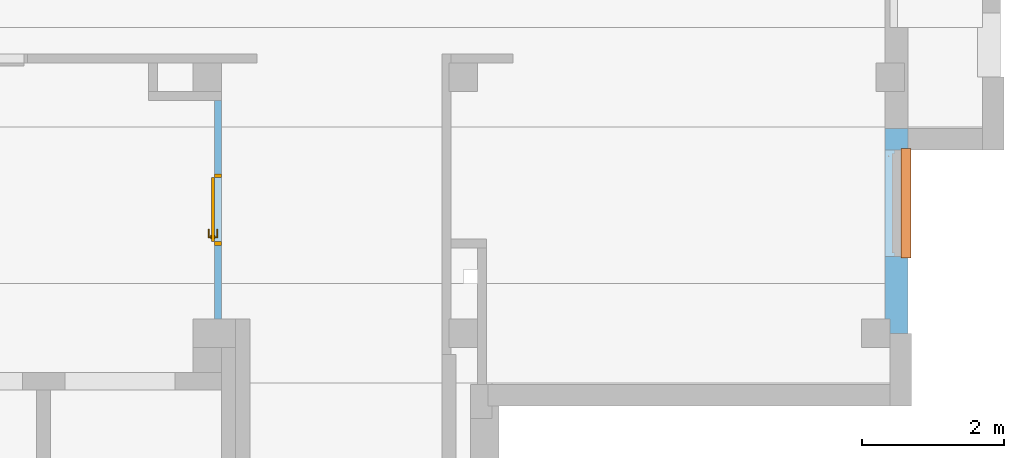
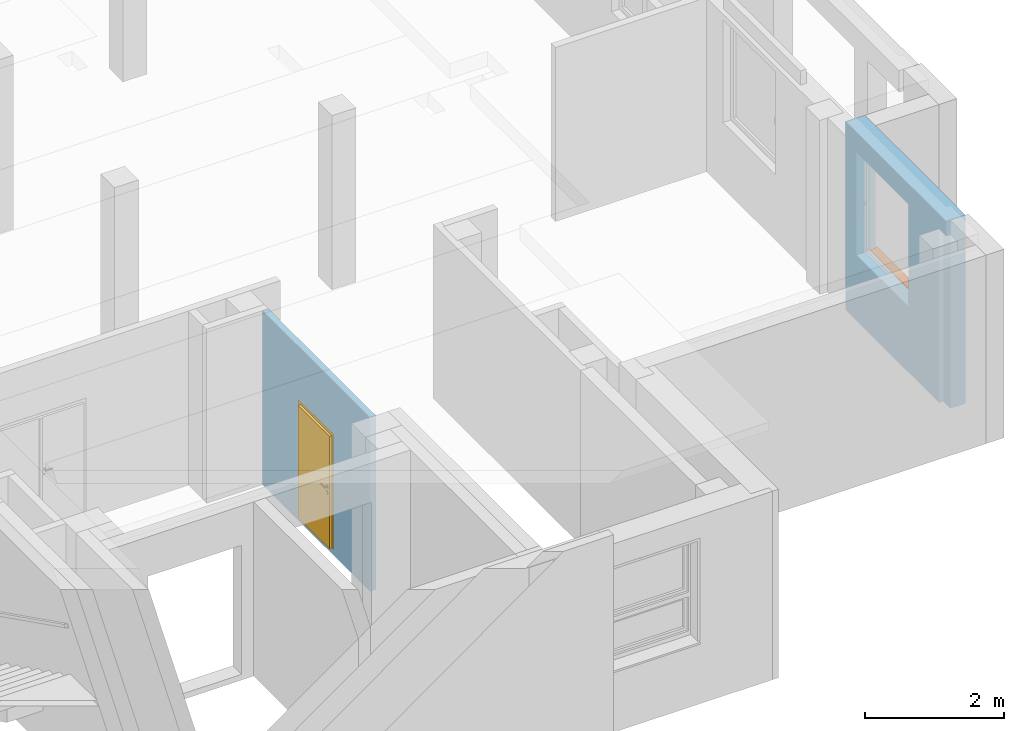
# One storey, part 18 of 27: 1 door, 1 proxy, 2 openings, plus 2 elements that do not belong to this part.
"""IFC4 building model written with IfcOpenShell, lengths in metres."""

import ifcopenshell
import ifcopenshell.guid

model = None  # the IFC model being written
_history = None  # IfcOwnerHistory: only IFC2X3 demands one
_inside = {}  # id of a spatial element -> (the spatial element, [elements in it])
_under = {}  # id of a project, library or spatial element -> (it, [spatial elements below it])
_declared = {}  # id of a project -> (the project, [libraries it declares])
_typed = {}  # id of a type object -> (the type object, [elements of that type])
_made_of = {}  # id of a material, layer set ... -> (it, [elements and type objects made of it])


def new_model(schema):
    """Start an empty IFC model of exactly this schema.

    Asked for "IFC4X3", IfcOpenShell would pick the latest addendum, in which some entities
    have other attributes; the version numbers below select the first issue.
    IFC2X3 requires an IfcOwnerHistory on every rooted entity: one is made here for all.
    """
    global model, _history
    if schema == "IFC4X3":
        model = ifcopenshell.file(schema_version=(4, 3, 0, 0))
    else:
        model = ifcopenshell.file(schema=schema)
    _inside.clear()
    _under.clear()
    _declared.clear()
    _typed.clear()
    _made_of.clear()
    _history = None
    if model.schema == "IFC2X3":
        org = make("IfcOrganization", Name="unknown")
        user = make(
            "IfcPersonAndOrganization",
            ThePerson=make("IfcPerson", FamilyName="unknown"),
            TheOrganization=org,
        )
        app = make(
            "IfcApplication",
            ApplicationDeveloper=org,
            Version="unknown",
            ApplicationFullName="unknown",
            ApplicationIdentifier="unknown",
        )
        _history = make(
            "IfcOwnerHistory",
            OwningUser=user,
            OwningApplication=app,
            ChangeAction="ADDED",
            CreationDate=0,
        )
    return model


def make(cls, **values):
    """One entity of the class cls with the attributes given. An attribute that is None is left unset."""
    return model.create_entity(
        cls, **{name: value for name, value in values.items() if value is not None}
    )


def entity(cls, *values):
    """Any entity or typed value of the class cls, its attributes in the order of the schema. None: left unset."""
    e = model.create_entity(cls)
    for i, value in enumerate(values):
        if value is not None:
            e[i] = value
    return e


def rooted(cls, **values):
    """An entity with a GlobalId (a new one), such as an element, a storey or a relation."""
    return make(cls, GlobalId=ifcopenshell.guid.new(), OwnerHistory=_history, **values)


def si_unit(unit_type, name, prefix=None):
    """IfcSIUnit, for example si_unit("LENGTHUNIT", "METRE", prefix="MILLI")."""
    return make("IfcSIUnit", UnitType=unit_type, Prefix=prefix, Name=name)


def converted_unit(unit_type, name, factor, base, dimensions=None, offset=None):
    """IfcConversionBasedUnit, such as the inch: factor (a typed value) times the base unit."""
    return make(
        "IfcConversionBasedUnit"
        if offset is None
        else "IfcConversionBasedUnitWithOffset",
        ConversionOffset=offset,
        Dimensions=None
        if dimensions is None
        else entity("IfcDimensionalExponents", *dimensions),
        UnitType=unit_type,
        Name=name,
        ConversionFactor=make(
            "IfcMeasureWithUnit", ValueComponent=factor, UnitComponent=base
        ),
    )


def derived_unit(unit_type, elements):
    """IfcDerivedUnit: a product of units, each with its exponent."""
    return make(
        "IfcDerivedUnit",
        Elements=[
            make("IfcDerivedUnitElement", Unit=unit, Exponent=power)
            for unit, power in elements
        ],
        UnitType=unit_type,
    )


def assignment(units):
    """IfcUnitAssignment: the units of a project."""
    return None if units is None else make("IfcUnitAssignment", Units=units)


def point(xyz):
    """IfcCartesianPoint."""
    return None if xyz is None else make("IfcCartesianPoint", Coordinates=xyz)


def direction(xyz):
    """IfcDirection."""
    return None if xyz is None else make("IfcDirection", DirectionRatios=xyz)


def frame(location, z_axis=None, x_axis=None):
    """IfcAxis2Placement3D, a coordinate frame: its origin and axes. An axis left out is left unset."""
    return make(
        "IfcAxis2Placement3D",
        Location=point(location),
        Axis=direction(z_axis),
        RefDirection=direction(x_axis),
    )


def frame_2d(location, x_axis=None):
    """IfcAxis2Placement2D, a coordinate frame in the plane: its origin and x axis."""
    return make(
        "IfcAxis2Placement2D", Location=point(location), RefDirection=direction(x_axis)
    )


def origin():
    """The frame at (0, 0, 0) with its axes left unset."""
    return frame((0.0, 0.0, 0.0))


def origin_with_axes():
    """The frame at (0, 0, 0) with the z axis (0, 0, 1) and the x axis (1, 0, 0) written out."""
    return frame((0.0, 0.0, 0.0), z_axis=(0.0, 0.0, 1.0), x_axis=(1.0, 0.0, 0.0))


def place(relative_to, where):
    """IfcLocalPlacement: puts the frame where relative to a parent placement (None: the world)."""
    return make(
        "IfcLocalPlacement", PlacementRelTo=relative_to, RelativePlacement=where
    )


def context(
    kind, dimensions, precision=None, world=None, true_north=None, identifier=None
):
    """IfcGeometricRepresentationContext, for example the 3D "Model" context."""
    return make(
        "IfcGeometricRepresentationContext",
        ContextIdentifier=identifier,
        ContextType=kind,
        CoordinateSpaceDimension=dimensions,
        Precision=precision,
        WorldCoordinateSystem=world,
        TrueNorth=true_north,
    )


def subcontext(parent, identifier, kind, view, scale=None):
    """IfcGeometricRepresentationSubContext, for example "Body" below "Model"."""
    return make(
        "IfcGeometricRepresentationSubContext",
        ContextIdentifier=identifier,
        ContextType=kind,
        ParentContext=parent,
        TargetScale=scale,
        TargetView=view,
    )


def project(units=None, contexts=None):
    """IfcProject with its units and contexts."""
    return rooted(
        "IfcProject",
        Name="project",
        RepresentationContexts=contexts,
        UnitsInContext=assignment(units),
    )


def spatial(cls, under=None, at=None, **own):
    """A site, building, storey or space (cls), placed at a placement, below another one or the project."""
    s = rooted(cls, ObjectPlacement=at, **own)
    if under is not None:
        _under.setdefault(under.id(), (under, []))[1].append(s)
    return s


def polyline(points):
    """IfcPolyline through the points."""
    return make("IfcPolyline", Points=[point(p) for p in points])


def profile(cls, at=None, kind="AREA", **sizes):
    """A parametric profile (cls). Its sizes go by their IFC names, for example OverallWidth=200.0."""
    return make(cls, ProfileType=kind, Position=at, **sizes)


def rectangle(**sizes):
    """IfcRectangleProfileDef."""
    return profile("IfcRectangleProfileDef", **sizes)


def outline(outer, holes=None, kind="AREA"):
    """IfcArbitraryClosedProfileDef: a profile drawn as a closed curve; with holes, ...WithVoids."""
    if holes is None:
        return make("IfcArbitraryClosedProfileDef", ProfileType=kind, OuterCurve=outer)
    return make(
        "IfcArbitraryProfileDefWithVoids",
        ProfileType=kind,
        OuterCurve=outer,
        InnerCurves=holes,
    )


def extrude(swept, where, along, depth):
    """IfcExtrudedAreaSolid: the profile swept, set in the frame where, extruded along a direction by depth."""
    return make(
        "IfcExtrudedAreaSolid",
        SweptArea=swept,
        Position=where,
        ExtrudedDirection=direction(along),
        Depth=depth,
    )


def clip(a, b, op="DIFFERENCE"):
    """IfcBooleanClippingResult: the solid a cut by the half space b."""
    return make(
        "IfcBooleanClippingResult", Operator=op, FirstOperand=a, SecondOperand=b
    )


def bounded_halfspace(plane, agree, where, boundary):
    """IfcPolygonalBoundedHalfSpace: a half space limited to a polygon's prism."""
    return make(
        "IfcPolygonalBoundedHalfSpace",
        BaseSurface=make("IfcPlane", Position=plane),
        AgreementFlag=agree,
        Position=where,
        PolygonalBoundary=boundary,
    )


def faces_of(points, faces, orient=None, outer=None):
    """IfcFace entities. A face is a list of loops; a loop is a list of indices into points, from 0.

    orient and outer hold one flag for each loop. By default every Orientation is true, the
    first loop of a face is its IfcFaceOuterBound and the others are IfcFaceBound.
    """
    made = []
    for i, loops in enumerate(faces):
        bounds = []
        for j, loop in enumerate(loops):
            is_outer = j == 0 if outer is None else outer[i][j]
            bounds.append(
                make(
                    "IfcFaceOuterBound" if is_outer else "IfcFaceBound",
                    Bound=make("IfcPolyLoop", Polygon=[points[k] for k in loop]),
                    Orientation=True if orient is None else orient[i][j],
                )
            )
        made.append(make("IfcFace", Bounds=bounds))
    return made


def closed_shell(faces, orient=None, outer=None):
    """The faces of one IfcClosedShell. faceted_brep and surface_model build it on their shared points."""
    return ("IfcClosedShell", faces, orient, outer)


def open_shell(faces, orient=None, outer=None):
    """The faces of one IfcOpenShell. surface_model builds it on its shared points."""
    return ("IfcOpenShell", faces, orient, outer)


def faceted_brep(points, faces, orient=None, outer=None, voids=None):
    """IfcFacetedBrep: a solid bounded by flat faces; with voids (closed shells), ...WithVoids."""
    shared = [point(p) for p in points]
    hull = make("IfcClosedShell", CfsFaces=faces_of(shared, faces, orient, outer))
    if voids is None:
        return make("IfcFacetedBrep", Outer=hull)
    return make(
        "IfcFacetedBrepWithVoids",
        Outer=hull,
        Voids=[
            make(cls, CfsFaces=faces_of(shared, fs, o, b)) for cls, fs, o, b in voids
        ],
    )


def surface_model(cls, points, shells):
    """IfcFaceBasedSurfaceModel or IfcShellBasedSurfaceModel (cls): surfaces that need not close."""
    shared = [point(p) for p in points]
    made = [make(c, CfsFaces=faces_of(shared, fs, o, b)) for c, fs, o, b in shells]
    if cls == "IfcFaceBasedSurfaceModel":
        return make(cls, FbsmFaces=made)
    return make(cls, SbsmBoundary=made)


def shape(context_of_items, identifier, shape_type, items):
    """IfcShapeRepresentation: the items that make up one representation, for example the "Body"."""
    return make(
        "IfcShapeRepresentation",
        ContextOfItems=context_of_items,
        RepresentationIdentifier=identifier,
        RepresentationType=shape_type,
        Items=items,
    )


def source(mapping_origin, context_of_items, identifier, shape_type, items):
    """IfcRepresentationMap: a shape defined once, which mapped items show again and again."""
    return make(
        "IfcRepresentationMap",
        MappingOrigin=mapping_origin,
        MappedRepresentation=shape(context_of_items, identifier, shape_type, items),
    )


def transform(
    local_origin,
    x_axis=None,
    y_axis=None,
    z_axis=None,
    scale=None,
    scale2=None,
    scale3=None,
    uniform=True,
):
    """IfcCartesianTransformationOperator3D, or its non-uniform kind. x_axis, y_axis, z_axis: its Axis1, 2, 3."""
    if uniform:
        return make(
            "IfcCartesianTransformationOperator3D",
            Axis1=direction(x_axis),
            Axis2=direction(y_axis),
            LocalOrigin=point(local_origin),
            Scale=scale,
            Axis3=direction(z_axis),
        )
    return make(
        "IfcCartesianTransformationOperator3DnonUniform",
        Axis1=direction(x_axis),
        Axis2=direction(y_axis),
        LocalOrigin=point(local_origin),
        Scale=scale,
        Axis3=direction(z_axis),
        Scale2=scale2,
        Scale3=scale3,
    )


def mapped(mapping_source, mapping_target):
    """IfcMappedItem: shows the shape of a source again, moved by a transform."""
    return make(
        "IfcMappedItem", MappingSource=mapping_source, MappingTarget=mapping_target
    )


def material(Name=None, Category=None):
    """IfcMaterial."""
    return make("IfcMaterial", Name=Name, Category=Category)


def layer(
    of_material, thickness, ventilated=None, Name=None, Category=None, Priority=None
):
    """IfcMaterialLayer: one layer of a wall or slab, of a material (None: an air gap)."""
    return make(
        "IfcMaterialLayer",
        Material=of_material,
        LayerThickness=thickness,
        IsVentilated=ventilated,
        Name=Name,
        Category=Category,
        Priority=Priority,
    )


def layer_set(layers, Name=None):
    """IfcMaterialLayerSet."""
    return make("IfcMaterialLayerSet", MaterialLayers=layers, LayerSetName=Name)


def layer_usage(for_layer_set, set_direction, sense, offset, extent=None):
    """IfcMaterialLayerSetUsage: how a layer set lies in its element."""
    return make(
        "IfcMaterialLayerSetUsage",
        ForLayerSet=for_layer_set,
        LayerSetDirection=set_direction,
        DirectionSense=sense,
        OffsetFromReferenceLine=offset,
        ReferenceExtent=extent,
    )


def made_of(thing, what):
    """Note that an element or type object is made of a material, layer set ...; save() writes the relation."""
    if what is not None:
        _made_of.setdefault(what.id(), (what, []))[1].append(thing)
    return thing


def type_object(cls, material=None, **own):
    """A type object (cls), such as IfcWallType, which elements share."""
    return made_of(rooted(cls, **own), material)


def element(
    cls,
    number,
    at=None,
    inside=None,
    cuts=None,
    type_object=None,
    material=None,
    context=None,
    identifier="Body",
    shape_type=None,
    held_by="IfcProductDefinitionShape",
    body=None,
    shapes=None,
    **own,
):
    """One element of the class cls, such as IfcWall. Its Tag is "e" and its number.

    at: its placement. inside: the storey or other place that contains it. cuts: it is an
    opening in that element (IfcRelVoidsElement). A single representation is given by context,
    identifier, shape_type and body (its items); several are given by shapes. held_by: the class
    of the entity that holds the representations. save() writes the other relations.
    """
    e = rooted(cls, Tag="e%d" % number, ObjectPlacement=at, **own)
    if body is not None:
        shapes = [shape(context, identifier, shape_type, body)]
    if shapes is not None:
        e.Representation = make(held_by, Representations=shapes)
    if inside is not None:
        _inside.setdefault(inside.id(), (inside, []))[1].append(e)
    if cuts is not None:
        rooted(
            "IfcRelVoidsElement", RelatingBuildingElement=cuts, RelatedOpeningElement=e
        )
    if type_object is not None:
        _typed.setdefault(type_object.id(), (type_object, []))[1].append(e)
    return made_of(e, material)


def fill(opening, filler):
    """IfcRelFillsElement: the door or window that sits in an opening."""
    return rooted(
        "IfcRelFillsElement",
        RelatingOpeningElement=opening,
        RelatedBuildingElement=filler,
    )


def aggregate(whole, parts):
    """IfcRelAggregates: a whole, such as a stair, and the parts it consists of."""
    return rooted("IfcRelAggregates", RelatingObject=whole, RelatedObjects=parts)


def save(model, path):
    """Write the relations noted so far, then the file.

    IfcRelAggregates (storeys below a building ...), IfcRelContainedInSpatialStructure (elements
    in a storey), IfcRelDefinesByType, IfcRelAssociatesMaterial and IfcRelDeclares: one each for
    every whole, place, type object, material and project.
    """
    for whole, parts in _under.values():
        aggregate(whole, parts)
    for where, things in _inside.values():
        rooted(
            "IfcRelContainedInSpatialStructure",
            RelatedElements=things,
            RelatingStructure=where,
        )
    for kind, things in _typed.values():
        rooted("IfcRelDefinesByType", RelatedObjects=things, RelatingType=kind)
    for what, things in _made_of.values():
        rooted("IfcRelAssociatesMaterial", RelatedObjects=things, RelatingMaterial=what)
    for by, libraries in _declared.values():
        rooted("IfcRelDeclares", RelatingContext=by, RelatedDefinitions=libraries)
    model.write(path)


model = new_model("IFC4")

# Units and contexts
model_context = context("Model", 3, precision=1e-05, world=origin())
body_context = subcontext(model_context, "Body", "Model", "MODEL_VIEW")
ifc_project = project(units=[si_unit("LENGTHUNIT", "METRE"), si_unit("AREAUNIT", "SQUARE_METRE"), si_unit("VOLUMEUNIT", "CUBIC_METRE"), si_unit("MASSUNIT", "GRAM", prefix="KILO"), converted_unit("PLANEANGLEUNIT", "DEGREE", entity("IfcPlaneAngleMeasure", 0.0174532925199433), si_unit("PLANEANGLEUNIT", "RADIAN"), dimensions=[0, 0, 0, 0, 0, 0, 0]), derived_unit("THERMALTRANSMITTANCEUNIT", [(si_unit("POWERUNIT", "WATT"), 1), (si_unit("THERMODYNAMICTEMPERATUREUNIT", "KELVIN"), -1), (si_unit("LENGTHUNIT", "METRE"), -2)]), derived_unit("VOLUMETRICFLOWRATEUNIT", [(si_unit("LENGTHUNIT", "METRE"), 3), (converted_unit("TIMEUNIT", "hour", entity("IfcTimeMeasure", 3600.0), si_unit("TIMEUNIT", "SECOND"), dimensions=[0, 0, 1, 0, 0, 0, 0]), -1), (si_unit("LENGTHUNIT", "METRE"), -1)])], contexts=[model_context])

# Site, building, storey
site_placement = place(None, origin())
site = spatial("IfcSite", under=ifc_project, at=site_placement, Name="3. ASŘ", CompositionType="ELEMENT")
building_placement = place(site_placement, origin())
building = spatial("IfcBuilding", under=site, at=building_placement, Name="Pavilon C", CompositionType="ELEMENT")
storey_placement = place(building_placement, frame((0.0, 0.0, 10.5)))
storey = spatial("IfcBuildingStorey", under=building, at=storey_placement, Name="Půdorys 4.NP", CompositionType="ELEMENT", Elevation=10.5)

# Wall, opening, proxy
ifc_material_1 = material(Name="PLYNOSILIKÁT")
ifc_layer_1 = layer(ifc_material_1, 0.32)
ifc_layer_set_1 = layer_set([ifc_layer_1])
ifc_layer_usage_1 = layer_usage(ifc_layer_set_1, "AXIS2", "POSITIVE", 0.0)
wall_1_placement = place(storey_placement, frame((50.2, -5.51980683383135e-15, -0.1), z_axis=(0.0, 0.0, 1.0), x_axis=(0.0, 1.0, 0.0)))
wall_1 = element("IfcWall", 1, at=wall_1_placement, inside=storey, material=ifc_layer_usage_1, Name="PLYNOSILIKÁT", context=body_context, shape_type="Clipping", body=[
    clip(extrude(rectangle(XDim=2.88, YDim=0.32, at=frame_2d((1.44, 0.16), x_axis=(1.0, 0.0))), origin_with_axes(), (0.0, 0.0, 1.0), 3.3), bounded_halfspace(frame((0.0999999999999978, 0.285, 3.05), z_axis=(0.0, 0.0, 1.0), x_axis=(0.0, 1.0, 0.0)), True, origin_with_axes(), polyline([(0.199999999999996, 0.25), (0.199999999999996, 0.32), (6.28386231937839e-17, 0.32), (6.28386231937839e-17, 0.25), (0.199999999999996, 0.25)]))),
])
opening_1_placement = place(wall_1_placement, frame((1.08, 0.0, 1.15), z_axis=(0.0, 1.0, 0.0), x_axis=(0.0, 0.0, 1.0)))
opening_1 = element("IfcOpeningElement", 2, at=opening_1_placement, cuts=wall_1, Name="Okenní otvor", ObjectType="Opening", context=body_context, shape_type="SweptSolid", body=[
    extrude(outline(polyline([(0.0, 1.5), (1.8, 1.5), (1.8, 0.0), (0.0, 0.0), (0.0, 1.5)])), origin_with_axes(), (0.0, 0.0, 1.0), 0.32),
])
ifc_material_2 = material(Name="PLECH")
shared_shape_1 = source(origin_with_axes(), body_context, "Body", "Brep", [
    faceted_brep([(-4.54747350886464e-16, 1.45519152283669e-14, 0.0), (-4.54747350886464e-16, 0.100000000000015, 0.0), (-4.54747350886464e-16, 0.100000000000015, 0.005), (-4.54747350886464e-16, 1.45519152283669e-14, 0.005), (1.5, 1.45519152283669e-14, 0.0), (1.5, 1.45519152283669e-14, 0.005), (1.5, 0.100000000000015, 0.005), (1.5, 0.100000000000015, 0.0), (-0.0200000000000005, 1.45519152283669e-14, 0.0), (-0.0200000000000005, -0.0349999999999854, 0.0), (1.52, -0.0349999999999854, 0.0), (1.52, 1.45519152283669e-14, 0.0), (1.52, 1.45519152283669e-14, 0.005), (1.52, -0.0399999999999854, 0.005), (-0.0200000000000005, -0.0399999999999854, 0.005), (-0.0200000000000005, 1.45519152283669e-14, 0.005), (-0.0200000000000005, -0.0399999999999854, -0.025), (-0.0200000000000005, -0.0349999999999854, -0.025), (1.52, -0.0349999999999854, -0.025), (1.52, -0.0399999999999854, -0.025)], [[[0, 1, 2, 3]], [[4, 5, 6, 7]], [[1, 0, 8, 9, 10, 11, 4, 7]], [[2, 1, 7, 6]], [[3, 2, 6, 5, 12, 13, 14, 15]], [[8, 15, 14, 16, 17, 9]], [[11, 10, 18, 19, 13, 12]], [[15, 8, 0, 3]], [[5, 4, 11, 12]], [[16, 14, 13, 19]], [[17, 16, 19, 18]], [[9, 17, 18, 10]]], orient=[[False], [False], [False], [False], [False], [False], [False], [False], [False], [False], [False], [False]]),
    faceted_brep([(-0.0200000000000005, 1.45519152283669e-14, 0.0), (-0.0200000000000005, 0.100000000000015, 0.0), (-0.0200000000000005, 0.100000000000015, 0.005), (-0.0200000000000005, 1.45519152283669e-14, 0.005), (-4.54747350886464e-16, 1.45519152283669e-14, 0.0), (-4.54747350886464e-16, 1.45519152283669e-14, 0.005), (-4.54747350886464e-16, 0.100000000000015, 0.005), (-4.54747350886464e-16, 0.100000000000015, 0.0)], [[[0, 1, 2, 3]], [[4, 5, 6, 7]], [[1, 0, 4, 7]], [[2, 1, 7, 6]], [[3, 2, 6, 5]], [[0, 3, 5, 4]]], orient=[[False], [False], [False], [False], [False], [False]]),
    faceted_brep([(1.5, 1.45519152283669e-14, 0.0), (1.5, 0.100000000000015, 0.0), (1.5, 0.100000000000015, 0.005), (1.5, 1.45519152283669e-14, 0.005), (1.52, 1.45519152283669e-14, 0.0), (1.52, 1.45519152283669e-14, 0.005), (1.52, 0.100000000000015, 0.005), (1.52, 0.100000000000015, 0.0)], [[[0, 1, 2, 3]], [[4, 5, 6, 7]], [[1, 0, 4, 7]], [[2, 1, 7, 6]], [[3, 2, 6, 5]], [[0, 3, 5, 4]]], orient=[[False], [False], [False], [False], [False], [False]]),
])
proxy_placement = place(opening_1_placement, frame((0.0, 0.0, 0.0), z_axis=(1.0, 0.0, 0.0), x_axis=(0.0, 1.0, 0.0)))
proxy = element("IfcBuildingElementProxy", 3, at=proxy_placement, inside=storey, material=ifc_material_2, Name="Parapet vnější", context=body_context, shape_type="MappedRepresentation", body=[
    mapped(shared_shape_1, transform((0.0, 0.0, 0.0), x_axis=(1.0, 0.0, 0.0), y_axis=(0.0, 1.0, 0.0), z_axis=(0.0, 0.0, 1.0), scale=1.0)),
])
fill(opening_1, proxy)

# Wall, opening, door
ifc_material_3 = material(Name="ZDIVO Z CDm")
ifc_layer_2 = layer(ifc_material_3, 0.1)
ifc_layer_set_2 = layer_set([ifc_layer_2])
ifc_layer_usage_2 = layer_usage(ifc_layer_set_2, "AXIS2", "POSITIVE", 0.0)
wall_2_placement = place(storey_placement, frame((40.55, 0.199999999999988, -0.1), z_axis=(0.0, 0.0, 1.0), x_axis=(0.0, 1.0, 0.0)))
wall_2 = element("IfcWall", 4, at=wall_2_placement, inside=storey, material=ifc_layer_usage_2, Name="ZDIVO Z CDm", context=body_context, shape_type="SweptSolid", body=[
    extrude(rectangle(XDim=3.075, YDim=0.1, at=frame_2d((1.5375, 0.05), x_axis=(1.0, 0.0))), origin_with_axes(), (0.0, 0.0, 1.0), 3.05),
])
opening_2_placement = place(wall_2_placement, frame((2.0375, 0.1, 0.1), z_axis=(0.0, -1.0, 0.0), x_axis=(0.0, 0.0, 1.0)))
opening_2 = element("IfcOpeningElement", 5, at=opening_2_placement, cuts=wall_2, Name="Dveřní otvor", ObjectType="Opening", context=body_context, shape_type="SweptSolid", body=[
    extrude(outline(polyline([(0.0, 1.0), (2.02, 1.0), (2.02, 0.0), (0.0, 0.0), (0.0, 1.0)])), origin_with_axes(), (0.0, 0.0, 1.0), 0.1),
])
door_type = type_object("IfcDoorType", Name="D101", OperationType="NOTDEFINED", ParameterTakesPrecedence=False, PredefinedType="DOOR")
shared_shape_2 = source(origin_with_axes(), body_context, "Body", "SurfaceModel", [
    surface_model("IfcShellBasedSurfaceModel", [(0.0, 0.1, 2.02), (0.0, 0.1, -6.12323399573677e-18), (0.05, 0.1, -6.12323399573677e-18), (0.05, 0.1, 2.02), (0.0, 0.0, 6.12323399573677e-18), (0.0, 2.41584530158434e-16, 2.02), (0.05, 2.41584530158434e-16, 2.02), (0.05, 0.0, 6.12323399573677e-18)], [closed_shell([[[0, 1, 2, 3]], [[4, 5, 6, 7]], [[1, 0, 5, 4]], [[2, 1, 4, 7]], [[3, 2, 7, 6]], [[0, 3, 6, 5]]], orient=[[False], [False], [False], [False], [False], [False]])]),
    surface_model("IfcShellBasedSurfaceModel", [(0.95, 0.1, 2.02), (0.95, 0.1, -6.12323399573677e-18), (1.0, 0.1, -6.12323399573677e-18), (1.0, 0.1, 2.02), (0.95, 0.0, 6.12323399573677e-18), (0.95, 2.41584530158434e-16, 2.02), (1.0, 2.41584530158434e-16, 2.02), (1.0, 0.0, 6.12323399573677e-18)], [closed_shell([[[0, 1, 2, 3]], [[4, 5, 6, 7]], [[1, 0, 5, 4]], [[2, 1, 4, 7]], [[3, 2, 7, 6]], [[0, 3, 6, 5]]], orient=[[False], [False], [False], [False], [False], [False]])]),
    surface_model("IfcShellBasedSurfaceModel", [(0.05, 0.1, 2.02), (0.05, 0.1, 1.97), (0.949999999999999, 0.1, 1.97), (0.949999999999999, 0.1, 2.02), (0.05, 2.41584530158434e-16, 1.97), (0.05, 2.41584530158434e-16, 2.02), (0.949999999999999, 2.41584530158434e-16, 2.02), (0.949999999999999, 2.41584530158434e-16, 1.97)], [closed_shell([[[0, 1, 2, 3]], [[4, 5, 6, 7]], [[1, 0, 5, 4]], [[2, 1, 4, 7]], [[3, 2, 7, 6]], [[0, 3, 6, 5]]], orient=[[False], [False], [False], [False], [False], [False]])]),
    surface_model("IfcShellBasedSurfaceModel", [(0.05, 0.14, 1.97), (0.05, 0.14, -1.10218211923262e-17), (0.949999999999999, 0.14, -1.10218211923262e-17), (0.949999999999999, 0.14, 1.97), (0.05, 0.1, -6.12323399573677e-18), (0.05, 0.1, 1.97), (0.949999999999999, 0.1, 1.97), (0.949999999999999, 0.1, -6.12323399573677e-18)], [closed_shell([[[0, 1, 2, 3]], [[4, 5, 6, 7]], [[1, 0, 5, 4]], [[2, 1, 4, 7]], [[3, 2, 7, 6]], [[0, 3, 6, 5]]], orient=[[False], [False], [False], [False], [False], [False]])]),
    surface_model("IfcShellBasedSurfaceModel", [(0.908815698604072, 0.1, 0.93625), (0.9125, 0.1, 0.95), (0.908815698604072, 0.1, 0.96375), (0.89875, 0.1, 0.973815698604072), (0.885, 0.1, 0.9775), (0.87125, 0.1, 0.973815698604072), (0.861184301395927, 0.1, 0.96375), (0.8575, 0.1, 0.95), (0.861184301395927, 0.1, 0.93625), (0.87125, 0.1, 0.926184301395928), (0.885, 0.1, 0.9225), (0.89875, 0.1, 0.926184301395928), (0.9125, 0.0875000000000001, 0.95), (0.908815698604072, 0.0875000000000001, 0.93625), (0.89875, 0.0875000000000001, 0.926184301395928), (0.885, 0.0875000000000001, 0.9225), (0.87125, 0.0875000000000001, 0.926184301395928), (0.861184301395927, 0.0875000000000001, 0.93625), (0.8575, 0.0875000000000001, 0.95), (0.861184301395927, 0.0875000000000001, 0.96375), (0.87125, 0.0875000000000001, 0.973815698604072), (0.885, 0.0875000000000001, 0.9775), (0.89875, 0.0875000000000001, 0.973815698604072), (0.908815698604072, 0.0875000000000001, 0.96375)], [closed_shell([[[0, 1, 2, 3, 4, 5, 6, 7, 8, 9, 10, 11]], [[12, 13, 14, 15, 16, 17, 18, 19, 20, 21, 22, 23]], [[1, 0, 13, 12]], [[2, 1, 12, 23]], [[3, 2, 23, 22]], [[4, 3, 22, 21]], [[5, 4, 21, 20]], [[6, 5, 20, 19]], [[7, 6, 19, 18]], [[8, 7, 18, 17]], [[9, 8, 17, 16]], [[10, 9, 16, 15]], [[11, 10, 15, 14]], [[0, 11, 14, 13]]], orient=[[False], [False], [False], [False], [False], [False], [False], [False], [False], [False], [False], [False], [False], [False]])]),
    surface_model("IfcShellBasedSurfaceModel", [(0.908815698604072, 0.1, 1.03625), (0.9125, 0.1, 1.05), (0.908815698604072, 0.1, 1.06375), (0.89875, 0.1, 1.07381569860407), (0.885, 0.1, 1.0775), (0.87125, 0.1, 1.07381569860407), (0.861184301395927, 0.1, 1.06375), (0.8575, 0.1, 1.05), (0.861184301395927, 0.1, 1.03625), (0.87125, 0.1, 1.02618430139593), (0.885, 0.1, 1.0225), (0.89875, 0.1, 1.02618430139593), (0.9125, 0.0875000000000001, 1.05), (0.908815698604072, 0.0875000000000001, 1.03625), (0.89875, 0.0875000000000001, 1.02618430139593), (0.885, 0.0875000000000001, 1.0225), (0.87125, 0.0875000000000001, 1.02618430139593), (0.861184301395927, 0.0875000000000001, 1.03625), (0.8575, 0.0875000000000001, 1.05), (0.861184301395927, 0.0875000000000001, 1.06375), (0.87125, 0.0875000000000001, 1.07381569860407), (0.885, 0.0875000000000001, 1.0775), (0.89875, 0.0875000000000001, 1.07381569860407), (0.908815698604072, 0.0875000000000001, 1.06375)], [closed_shell([[[0, 1, 2, 3, 4, 5, 6, 7, 8, 9, 10, 11]], [[12, 13, 14, 15, 16, 17, 18, 19, 20, 21, 22, 23]], [[1, 0, 13, 12]], [[2, 1, 12, 23]], [[3, 2, 23, 22]], [[4, 3, 22, 21]], [[5, 4, 21, 20]], [[6, 5, 20, 19]], [[7, 6, 19, 18]], [[8, 7, 18, 17]], [[9, 8, 17, 16]], [[10, 9, 16, 15]], [[11, 10, 15, 14]], [[0, 11, 14, 13]]], orient=[[False], [False], [False], [False], [False], [False], [False], [False], [False], [False], [False], [False], [False], [False]])]),
    surface_model("IfcShellBasedSurfaceModel", [(0.885, 0.1, 1.06), (0.88, 0.1, 1.05866025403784), (0.876339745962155, 0.1, 1.055), (0.875, 0.1, 1.05), (0.876339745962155, 0.1, 1.045), (0.88, 0.1, 1.04133974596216), (0.885, 0.1, 1.04), (0.89, 0.1, 1.04133974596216), (0.893660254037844, 0.1, 1.045), (0.895, 0.1, 1.05), (0.893660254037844, 0.1, 1.055), (0.89, 0.1, 1.05866025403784), (0.89, 0.0550000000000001, 1.05866025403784), (0.885, 0.0600000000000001, 1.06), (0.893660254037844, 0.0513397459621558, 1.055), (0.895, 0.0500000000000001, 1.05), (0.893660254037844, 0.0513397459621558, 1.045), (0.89, 0.0550000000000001, 1.04133974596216), (0.885, 0.0600000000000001, 1.04), (0.88, 0.0650000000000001, 1.04133974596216), (0.876339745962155, 0.0686602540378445, 1.045), (0.875, 0.0700000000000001, 1.05), (0.876339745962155, 0.0686602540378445, 1.055), (0.88, 0.0650000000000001, 1.05866025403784), (0.77, 0.0550000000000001, 1.05866025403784), (0.77, 0.0600000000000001, 1.06), (0.77, 0.0513397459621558, 1.055), (0.77, 0.0500000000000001, 1.05), (0.77, 0.0513397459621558, 1.045), (0.77, 0.0550000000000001, 1.04133974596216), (0.77, 0.0600000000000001, 1.04), (0.77, 0.0650000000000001, 1.04133974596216), (0.77, 0.0686602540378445, 1.045), (0.77, 0.0700000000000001, 1.05), (0.77, 0.0686602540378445, 1.055), (0.77, 0.0650000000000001, 1.05866025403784)], [open_shell([[[0, 1, 2, 3, 4, 5, 6, 7, 8, 9, 10, 11]], [[0, 11, 12, 13]], [[11, 10, 14, 12]], [[10, 9, 15, 14]], [[9, 8, 16, 15]], [[8, 7, 17, 16]], [[7, 6, 18, 17]], [[6, 5, 19, 18]], [[5, 4, 20, 19]], [[4, 3, 21, 20]], [[3, 2, 22, 21]], [[2, 1, 23, 22]], [[1, 0, 13, 23]], [[13, 12, 24, 25]], [[12, 14, 26, 24]], [[14, 15, 27, 26]], [[15, 16, 28, 27]], [[16, 17, 29, 28]], [[17, 18, 30, 29]], [[18, 19, 31, 30]], [[19, 20, 32, 31]], [[20, 21, 33, 32]], [[21, 22, 34, 33]], [[22, 23, 35, 34]], [[23, 13, 25, 35]]], orient=[[False], [False], [False], [False], [False], [False], [False], [False], [False], [False], [False], [False], [False], [False], [False], [False], [False], [False], [False], [False], [False], [False], [False], [False], [False]])]),
    surface_model("IfcShellBasedSurfaceModel", [(0.908815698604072, 0.14, 0.93625), (0.89875, 0.14, 0.926184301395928), (0.885, 0.14, 0.9225), (0.87125, 0.14, 0.926184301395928), (0.861184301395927, 0.14, 0.93625), (0.8575, 0.14, 0.95), (0.861184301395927, 0.14, 0.96375), (0.87125, 0.14, 0.973815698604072), (0.885, 0.14, 0.9775), (0.89875, 0.14, 0.973815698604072), (0.908815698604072, 0.14, 0.96375), (0.9125, 0.14, 0.95), (0.9125, 0.1525, 0.95), (0.908815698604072, 0.1525, 0.96375), (0.89875, 0.1525, 0.973815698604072), (0.885, 0.1525, 0.9775), (0.87125, 0.1525, 0.973815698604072), (0.861184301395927, 0.1525, 0.96375), (0.8575, 0.1525, 0.95), (0.861184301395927, 0.1525, 0.93625), (0.87125, 0.1525, 0.926184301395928), (0.885, 0.1525, 0.9225), (0.89875, 0.1525, 0.926184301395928), (0.908815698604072, 0.1525, 0.93625)], [closed_shell([[[0, 1, 2, 3, 4, 5, 6, 7, 8, 9, 10, 11]], [[12, 13, 14, 15, 16, 17, 18, 19, 20, 21, 22, 23]], [[11, 12, 23, 0]], [[10, 13, 12, 11]], [[9, 14, 13, 10]], [[8, 15, 14, 9]], [[7, 16, 15, 8]], [[6, 17, 16, 7]], [[5, 18, 17, 6]], [[4, 19, 18, 5]], [[3, 20, 19, 4]], [[2, 21, 20, 3]], [[1, 22, 21, 2]], [[0, 23, 22, 1]]], orient=[[False], [False], [False], [False], [False], [False], [False], [False], [False], [False], [False], [False], [False], [False]])]),
    surface_model("IfcShellBasedSurfaceModel", [(0.908815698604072, 0.14, 1.03625), (0.89875, 0.14, 1.02618430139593), (0.885, 0.14, 1.0225), (0.87125, 0.14, 1.02618430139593), (0.861184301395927, 0.14, 1.03625), (0.8575, 0.14, 1.05), (0.861184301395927, 0.14, 1.06375), (0.87125, 0.14, 1.07381569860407), (0.885, 0.14, 1.0775), (0.89875, 0.14, 1.07381569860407), (0.908815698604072, 0.14, 1.06375), (0.9125, 0.14, 1.05), (0.9125, 0.1525, 1.05), (0.908815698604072, 0.1525, 1.06375), (0.89875, 0.1525, 1.07381569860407), (0.885, 0.1525, 1.0775), (0.87125, 0.1525, 1.07381569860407), (0.861184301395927, 0.1525, 1.06375), (0.8575, 0.1525, 1.05), (0.861184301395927, 0.1525, 1.03625), (0.87125, 0.1525, 1.02618430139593), (0.885, 0.1525, 1.0225), (0.89875, 0.1525, 1.02618430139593), (0.908815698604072, 0.1525, 1.03625)], [closed_shell([[[0, 1, 2, 3, 4, 5, 6, 7, 8, 9, 10, 11]], [[12, 13, 14, 15, 16, 17, 18, 19, 20, 21, 22, 23]], [[11, 12, 23, 0]], [[10, 13, 12, 11]], [[9, 14, 13, 10]], [[8, 15, 14, 9]], [[7, 16, 15, 8]], [[6, 17, 16, 7]], [[5, 18, 17, 6]], [[4, 19, 18, 5]], [[3, 20, 19, 4]], [[2, 21, 20, 3]], [[1, 22, 21, 2]], [[0, 23, 22, 1]]], orient=[[False], [False], [False], [False], [False], [False], [False], [False], [False], [False], [False], [False], [False], [False]])]),
    surface_model("IfcShellBasedSurfaceModel", [(0.885, 0.14, 1.06), (0.89, 0.14, 1.05866025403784), (0.893660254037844, 0.14, 1.055), (0.895, 0.14, 1.05), (0.893660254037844, 0.14, 1.045), (0.89, 0.14, 1.04133974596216), (0.885, 0.14, 1.04), (0.88, 0.14, 1.04133974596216), (0.876339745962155, 0.14, 1.045), (0.875, 0.14, 1.05), (0.876339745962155, 0.14, 1.055), (0.88, 0.14, 1.05866025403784), (0.885, 0.18, 1.06), (0.89, 0.185, 1.05866025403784), (0.893660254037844, 0.188660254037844, 1.055), (0.895, 0.19, 1.05), (0.893660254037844, 0.188660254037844, 1.045), (0.89, 0.185, 1.04133974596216), (0.885, 0.18, 1.04), (0.88, 0.175, 1.04133974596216), (0.876339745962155, 0.171339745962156, 1.045), (0.875, 0.17, 1.05), (0.876339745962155, 0.171339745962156, 1.055), (0.88, 0.175, 1.05866025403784), (0.77, 0.18, 1.06), (0.77, 0.185, 1.05866025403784), (0.77, 0.188660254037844, 1.055), (0.77, 0.19, 1.05), (0.77, 0.188660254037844, 1.045), (0.77, 0.185, 1.04133974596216), (0.77, 0.18, 1.04), (0.77, 0.175, 1.04133974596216), (0.77, 0.171339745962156, 1.045), (0.77, 0.17, 1.05), (0.77, 0.171339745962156, 1.055), (0.77, 0.175, 1.05866025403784)], [open_shell([[[0, 1, 2, 3, 4, 5, 6, 7, 8, 9, 10, 11]], [[0, 12, 13, 1]], [[1, 13, 14, 2]], [[2, 14, 15, 3]], [[3, 15, 16, 4]], [[4, 16, 17, 5]], [[5, 17, 18, 6]], [[6, 18, 19, 7]], [[7, 19, 20, 8]], [[8, 20, 21, 9]], [[9, 21, 22, 10]], [[10, 22, 23, 11]], [[11, 23, 12, 0]], [[12, 24, 25, 13]], [[13, 25, 26, 14]], [[14, 26, 27, 15]], [[15, 27, 28, 16]], [[16, 28, 29, 17]], [[17, 29, 30, 18]], [[18, 30, 31, 19]], [[19, 31, 32, 20]], [[20, 32, 33, 21]], [[21, 33, 34, 22]], [[22, 34, 35, 23]], [[23, 35, 24, 12]]], orient=[[False], [False], [False], [False], [False], [False], [False], [False], [False], [False], [False], [False], [False], [False], [False], [False], [False], [False], [False], [False], [False], [False], [False], [False], [False]])]),
])
door_placement = place(opening_2_placement, frame((0.0, 9.09494701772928e-16, 0.0999999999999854), z_axis=(1.0, 0.0, 0.0), x_axis=(0.0, 1.0, -1.22464679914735e-16)))
door = element("IfcDoor", 6, at=door_placement, inside=storey, type_object=door_type, Name="D101", OverallHeight=2.02, OverallWidth=1.0, context=body_context, shape_type="MappedRepresentation", body=[
    mapped(shared_shape_2, transform((0.0, 0.0, 0.0), x_axis=(1.0, 0.0, 0.0), y_axis=(0.0, -1.0, 0.0), z_axis=(0.0, 0.0, 1.0), scale=1.0)),
])
fill(opening_2, door)

save(model, "model.ifc")
